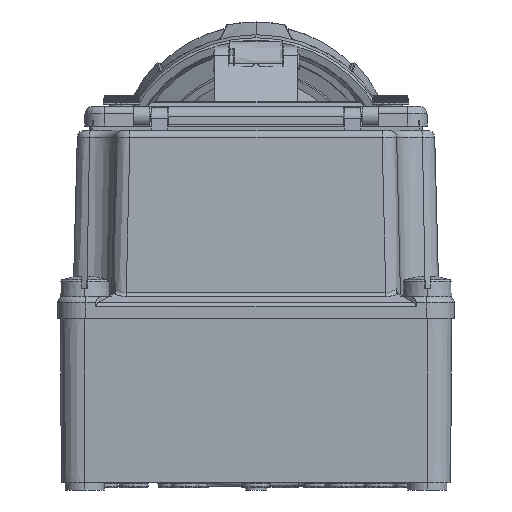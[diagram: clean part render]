
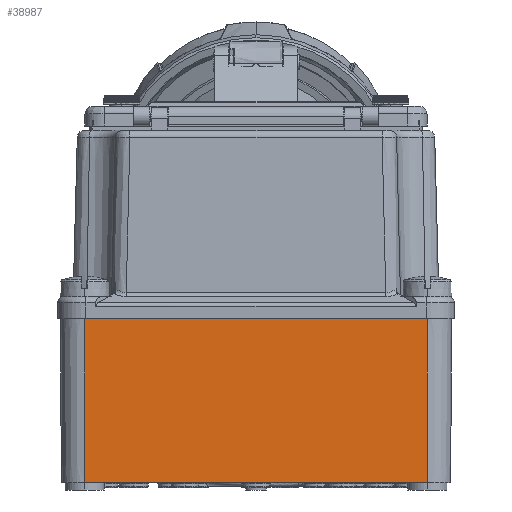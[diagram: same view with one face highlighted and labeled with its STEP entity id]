
A CAD part, left-side view. The second image highlights one B-rep face of the part: STEP entity #38987.
In plain terms, the highlighted planar face has unit normal (-1, 0, -0.007).
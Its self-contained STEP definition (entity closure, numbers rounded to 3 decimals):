
#312=DIRECTION('',(0.,-1.,0.));
#313=VECTOR('',#312,140.);
#314=CARTESIAN_POINT('',(-129.5,70.,0.));
#315=LINE('2339',#314,#313);
#713=DIRECTION('',(0.,-1.,0.));
#714=VECTOR('',#713,140.);
#715=CARTESIAN_POINT('',(-130.,70.,67.));
#716=LINE('3360',#715,#714);
#30389=DIRECTION('',(-0.007,0.,1.));
#30390=VECTOR('',#30389,67.002);
#30391=CARTESIAN_POINT('',(-129.5,70.,0.));
#30392=LINE('3368',#30391,#30390);
#30444=DIRECTION('',(-0.007,0.,1.));
#30445=VECTOR('',#30444,67.002);
#30446=CARTESIAN_POINT('',(-129.5,-70.,0.));
#30447=LINE('3369',#30446,#30445);
#33440=CARTESIAN_POINT('',(-129.5,70.,0.));
#33441=CARTESIAN_POINT('',(-129.5,-70.,0.));
#33442=VERTEX_POINT('',#33440);
#33443=VERTEX_POINT('',#33441);
#34646=CARTESIAN_POINT('',(-130.,70.,67.));
#34647=CARTESIAN_POINT('',(-130.,-70.,67.));
#34648=VERTEX_POINT('',#34646);
#34649=VERTEX_POINT('',#34647);
#38973=CARTESIAN_POINT('',(-129.5,70.,0.));
#38974=DIRECTION('',(1.,0.,0.007));
#38975=DIRECTION('',(-0.007,0.,1.));
#38976=AXIS2_PLACEMENT_3D('',#38973,#38974,#38975);
#38977=PLANE('396',#38976);
#38979=ORIENTED_EDGE('3360',*,*,#38978,.T.);
#38981=ORIENTED_EDGE('3369',*,*,#38980,.F.);
#38982=ORIENTED_EDGE('2339',*,*,#38700,.F.);
#38984=ORIENTED_EDGE('3368',*,*,#38983,.T.);
#38985=EDGE_LOOP('396',(#38979,#38981,#38982,#38984));
#38986=FACE_OUTER_BOUND('396',#38985,.F.);
#38700=EDGE_CURVE('2339',#33442,#33443,#315,.T.);
#38978=EDGE_CURVE('3360',#34648,#34649,#716,.T.);
#38980=EDGE_CURVE('3369',#33443,#34649,#30447,.T.);
#38983=EDGE_CURVE('3368',#33442,#34648,#30392,.T.);
#38987=ADVANCED_FACE('396',(#38986),#38977,.F.);
